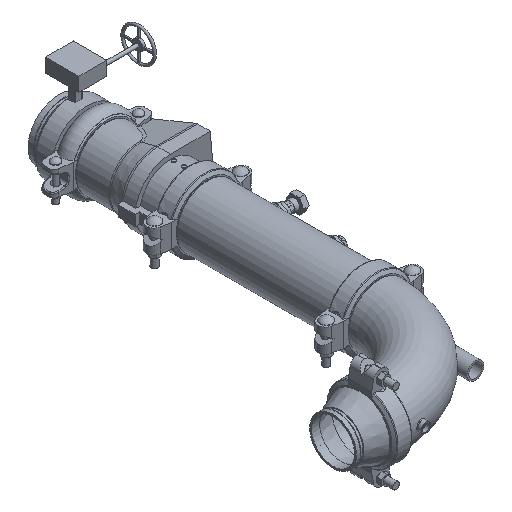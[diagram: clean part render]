
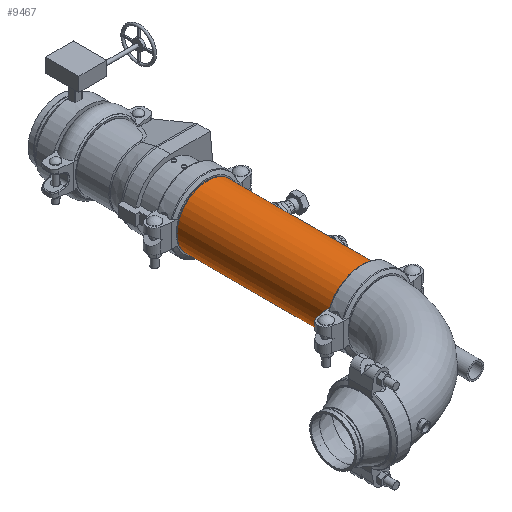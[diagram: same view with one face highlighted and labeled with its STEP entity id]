
A CAD part, isometric view. The second image highlights one B-rep face of the part: STEP entity #9467.
In plain terms, the highlighted cylindrical face has radius 109.537 mm (diameter 219.075 mm), a full revolution.
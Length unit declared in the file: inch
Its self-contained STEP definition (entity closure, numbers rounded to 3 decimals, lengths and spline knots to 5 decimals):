
#307=LINE('',#14261,#992);
#992=VECTOR('',#11356,4.3125);
#1677=CYLINDRICAL_SURFACE('',#10223,4.3125);
#1960=FACE_OUTER_BOUND('',#2492,.T.);
#2492=EDGE_LOOP('',(#5923,#5924,#5925,#5926,#5927,#5928));
#3122=CIRCLE('',#10221,4.3125);
#3123=CIRCLE('',#10222,4.3125);
#3124=CIRCLE('',#10224,4.3125);
#3125=CIRCLE('',#10225,4.3125);
#3636=VERTEX_POINT('',#14252);
#3637=VERTEX_POINT('',#14253);
#3638=VERTEX_POINT('',#14257);
#3639=VERTEX_POINT('',#14258);
#4553=EDGE_CURVE('',#3636,#3637,#3122,.T.);
#4554=EDGE_CURVE('',#3637,#3636,#3123,.T.);
#4555=EDGE_CURVE('',#3638,#3639,#3124,.T.);
#4556=EDGE_CURVE('',#3639,#3638,#3125,.T.);
#4557=EDGE_CURVE('',#3639,#3637,#307,.T.);
#5923=ORIENTED_EDGE('',*,*,#4555,.F.);
#5924=ORIENTED_EDGE('',*,*,#4556,.F.);
#5925=ORIENTED_EDGE('',*,*,#4557,.T.);
#5926=ORIENTED_EDGE('',*,*,#4554,.T.);
#5927=ORIENTED_EDGE('',*,*,#4553,.T.);
#5928=ORIENTED_EDGE('',*,*,#4557,.F.);
#9467=ADVANCED_FACE('',(#1960),#1677,.T.);
#10221=AXIS2_PLACEMENT_3D('',#14254,#11346,#11347);
#10222=AXIS2_PLACEMENT_3D('',#14255,#11348,#11349);
#10223=AXIS2_PLACEMENT_3D('',#14256,#11350,#11351);
#10224=AXIS2_PLACEMENT_3D('',#14259,#11352,#11353);
#10225=AXIS2_PLACEMENT_3D('',#14260,#11354,#11355);
#11346=DIRECTION('center_axis',(1.,0.,0.));
#11347=DIRECTION('ref_axis',(0.,0.,-1.));
#11348=DIRECTION('center_axis',(1.,0.,0.));
#11349=DIRECTION('ref_axis',(0.,0.,-1.));
#11350=DIRECTION('center_axis',(1.,0.,0.));
#11351=DIRECTION('ref_axis',(0.,1.,0.));
#11352=DIRECTION('center_axis',(1.,0.,0.));
#11353=DIRECTION('ref_axis',(0.,0.,-1.));
#11354=DIRECTION('center_axis',(1.,0.,0.));
#11355=DIRECTION('ref_axis',(0.,0.,-1.));
#11356=DIRECTION('',(-1.,0.,0.));
#14252=CARTESIAN_POINT('',(-10.79725,4.3125,0.));
#14253=CARTESIAN_POINT('',(-10.79725,-4.3125,0.));
#14254=CARTESIAN_POINT('Origin',(-10.79725,0.,0.));
#14255=CARTESIAN_POINT('Origin',(-10.79725,0.,0.));
#14256=CARTESIAN_POINT('Origin',(0.,0.,0.));
#14257=CARTESIAN_POINT('',(10.79725,4.3125,0.));
#14258=CARTESIAN_POINT('',(10.79725,-4.3125,0.));
#14259=CARTESIAN_POINT('Origin',(10.79725,0.,0.));
#14260=CARTESIAN_POINT('Origin',(10.79725,0.,0.));
#14261=CARTESIAN_POINT('',(0.,-4.3125,0.));
